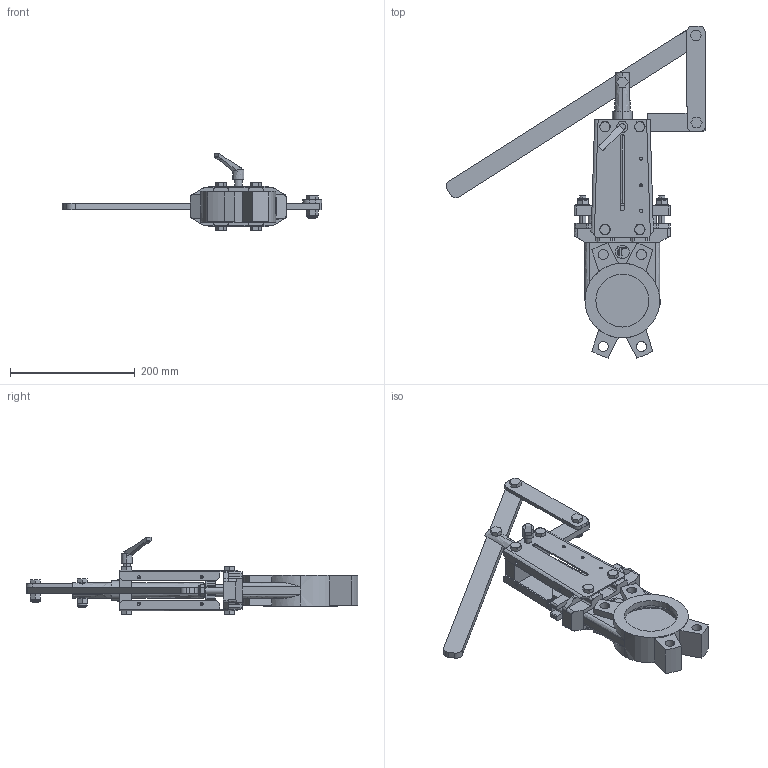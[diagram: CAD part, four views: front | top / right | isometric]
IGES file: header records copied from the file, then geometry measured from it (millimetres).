
Start section: SolidWorks IGES file using NURBS representation for surfaces
Global section: file name: H:\BE BIBLIOTHEQUE 3D\VG\VG-02 LEVER(DN50-300)\VG L DN80\VG L DN80.IGS; native system: SolidWorks 2011; preprocessor: SolidWorks 2011; author: c.aries; date: 121003.141851; units: millimetre
Bounding box: 416.92 x 533.19 x 124.68 mm (x, y, z)
Volume: 1371501.3 mm3; surface area: 335204.2 mm2
Topology: 2 solids, 5 shells, 789 faces, 2114 edges, 1374 vertices
Faces by surface type: bspline 789
